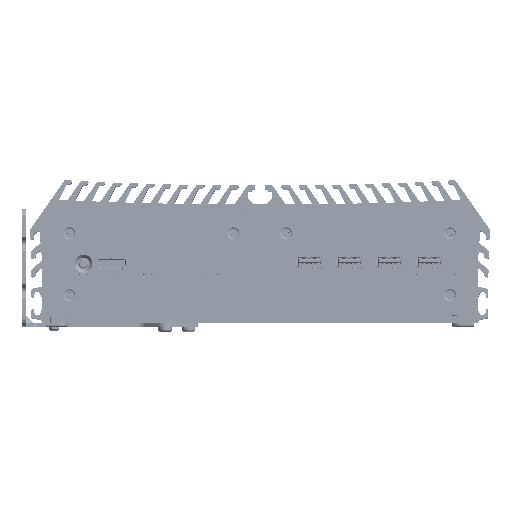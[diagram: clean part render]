
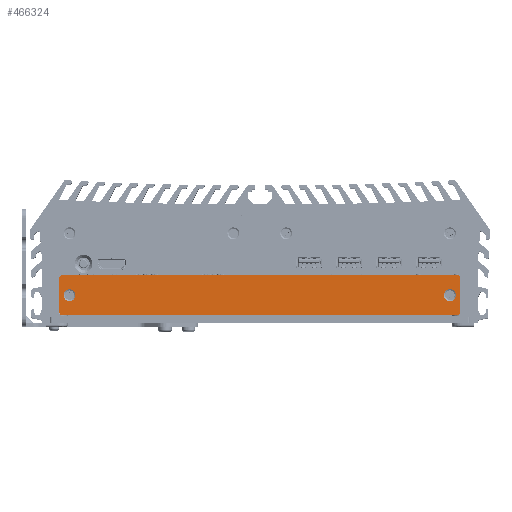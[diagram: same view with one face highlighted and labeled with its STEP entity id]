
A CAD part, top view. The second image highlights one B-rep face of the part: STEP entity #466324.
In plain terms, the highlighted planar face has unit normal (0, 0, 1).
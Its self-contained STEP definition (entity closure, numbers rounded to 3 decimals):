
#171 = ORIENTED_EDGE ( 'NONE', *, *, #6915, .T. ) ;
#858 = VERTEX_POINT ( 'NONE', #154339 ) ;
#930 = EDGE_LOOP ( 'NONE', ( #102968, #289041 ) ) ;
#4235 = DIRECTION ( 'NONE',  ( 1., 0., 0. ) ) ;
#4297 = DIRECTION ( 'NONE',  ( 0., 0., 1. ) ) ;
#5829 = DIRECTION ( 'NONE',  ( -1., 0., 0. ) ) ;
#6915 = EDGE_CURVE ( 'NONE', #99692, #458708, #12972, .T. ) ;
#12972 = LINE ( 'NONE', #361906, #472547 ) ;
#13057 = CARTESIAN_POINT ( 'NONE',  ( -103.261, 0., 2. ) ) ;
#13329 = DIRECTION ( 'NONE',  ( 0., 0., 1. ) ) ;
#23074 = CARTESIAN_POINT ( 'NONE',  ( -96.989, 0., 2. ) ) ;
#24335 = CARTESIAN_POINT ( 'NONE',  ( -105.475, 8.95, 2. ) ) ;
#40212 = VERTEX_POINT ( 'NONE', #168207 ) ;
#40541 = VERTEX_POINT ( 'NONE', #239877 ) ;
#47372 = AXIS2_PLACEMENT_3D ( 'NONE', #105213, #416600, #149912 ) ;
#50829 = CIRCLE ( 'NONE', #250267, 1.7 ) ;
#52632 = DIRECTION ( 'NONE',  ( 0., 0., -1. ) ) ;
#59001 = VECTOR ( 'NONE', #432453, 1000. ) ;
#74867 = ORIENTED_EDGE ( 'NONE', *, *, #246201, .T. ) ;
#77044 = LINE ( 'NONE', #342009, #90994 ) ;
#78910 = FACE_BOUND ( 'NONE', #930, .T. ) ;
#90994 = VECTOR ( 'NONE', #523170, 1000. ) ;
#99692 = VERTEX_POINT ( 'NONE', #531820 ) ;
#102636 = VERTEX_POINT ( 'NONE', #186629 ) ;
#102968 = ORIENTED_EDGE ( 'NONE', *, *, #254647, .T. ) ;
#105213 = CARTESIAN_POINT ( 'NONE',  ( 103.775, -8.95, 2. ) ) ;
#108814 = VERTEX_POINT ( 'NONE', #23074 ) ;
#123111 = ORIENTED_EDGE ( 'NONE', *, *, #465510, .T. ) ;
#125374 = CIRCLE ( 'NONE', #489787, 3.136 ) ;
#127342 = AXIS2_PLACEMENT_3D ( 'NONE', #182751, #494307, #227591 ) ;
#137889 = CARTESIAN_POINT ( 'NONE',  ( 105.475, 8.95, 2. ) ) ;
#140913 = DIRECTION ( 'NONE',  ( 0., 0., -1. ) ) ;
#149912 = DIRECTION ( 'NONE',  ( -1., 0., 0. ) ) ;
#154339 = CARTESIAN_POINT ( 'NONE',  ( 105.475, 8.95, 2. ) ) ;
#168207 = CARTESIAN_POINT ( 'NONE',  ( 105.475, -8.95, 2. ) ) ;
#168852 = VERTEX_POINT ( 'NONE', #24335 ) ;
#169891 = DIRECTION ( 'NONE',  ( 0., 0., -1. ) ) ;
#171719 = VERTEX_POINT ( 'NONE', #196928 ) ;
#173271 = CIRCLE ( 'NONE', #450421, 3.136 ) ;
#182751 = CARTESIAN_POINT ( 'NONE',  ( -103.775, 8.95, 2. ) ) ;
#186629 = CARTESIAN_POINT ( 'NONE',  ( -105.475, -8.95, 2. ) ) ;
#188954 = EDGE_CURVE ( 'NONE', #168852, #102636, #77044, .T. ) ;
#192885 = CARTESIAN_POINT ( 'NONE',  ( -103.775, 10.65, 2. ) ) ;
#196928 = CARTESIAN_POINT ( 'NONE',  ( 103.775, -10.65, 2. ) ) ;
#204191 = AXIS2_PLACEMENT_3D ( 'NONE', #319165, #52632, #363898 ) ;
#227479 = DIRECTION ( 'NONE',  ( 0., 1., 0. ) ) ;
#227591 = DIRECTION ( 'NONE',  ( -1., 0., 0. ) ) ;
#229361 = VERTEX_POINT ( 'NONE', #462696 ) ;
#231374 = EDGE_CURVE ( 'NONE', #458708, #168852, #415476, .T. ) ;
#232146 = DIRECTION ( 'NONE',  ( 0., 0., -1. ) ) ;
#239877 = CARTESIAN_POINT ( 'NONE',  ( 96.989, 0., 2. ) ) ;
#246201 = EDGE_CURVE ( 'NONE', #171719, #40212, #317732, .T. ) ;
#246267 = LINE ( 'NONE', #137889, #497120 ) ;
#250267 = AXIS2_PLACEMENT_3D ( 'NONE', #270956, #4297, #315641 ) ;
#254647 = EDGE_CURVE ( 'NONE', #108814, #484351, #173271, .T. ) ;
#270896 = DIRECTION ( 'NONE',  ( 0., 0., 1. ) ) ;
#270956 = CARTESIAN_POINT ( 'NONE',  ( -103.775, -8.95, 2. ) ) ;
#279987 = CARTESIAN_POINT ( 'NONE',  ( 103.775, 8.95, 2. ) ) ;
#289041 = ORIENTED_EDGE ( 'NONE', *, *, #393317, .T. ) ;
#306920 = EDGE_CURVE ( 'NONE', #40212, #858, #246267, .T. ) ;
#308518 = ORIENTED_EDGE ( 'NONE', *, *, #543657, .T. ) ;
#315073 = ORIENTED_EDGE ( 'NONE', *, *, #378008, .T. ) ;
#315641 = DIRECTION ( 'NONE',  ( -1., 0., 0. ) ) ;
#317732 = CIRCLE ( 'NONE', #47372, 1.7 ) ;
#318525 = CARTESIAN_POINT ( 'NONE',  ( -103.775, -10.65, 2. ) ) ;
#318527 = CIRCLE ( 'NONE', #428937, 3.136 ) ;
#319165 = CARTESIAN_POINT ( 'NONE',  ( -100.125, 0., 2. ) ) ;
#324629 = DIRECTION ( 'NONE',  ( 1., 0., 0. ) ) ;
#329628 = FACE_OUTER_BOUND ( 'NONE', #343398, .T. ) ;
#342009 = CARTESIAN_POINT ( 'NONE',  ( -105.475, 8.95, 2. ) ) ;
#343398 = EDGE_LOOP ( 'NONE', ( #123111, #171, #545027, #426027, #396674, #315073, #74867, #381392 ) ) ;
#344172 = CIRCLE ( 'NONE', #417228, 1.7 ) ;
#361906 = CARTESIAN_POINT ( 'NONE',  ( -103.775, 10.65, 2. ) ) ;
#363898 = DIRECTION ( 'NONE',  ( 1., 0., 0. ) ) ;
#378008 = EDGE_CURVE ( 'NONE', #448478, #171719, #414101, .T. ) ;
#381392 = ORIENTED_EDGE ( 'NONE', *, *, #306920, .T. ) ;
#387821 = CARTESIAN_POINT ( 'NONE',  ( -103.775, -10.65, 2. ) ) ;
#393317 = EDGE_CURVE ( 'NONE', #484351, #108814, #570480, .T. ) ;
#396674 = ORIENTED_EDGE ( 'NONE', *, *, #438297, .T. ) ;
#403139 = CARTESIAN_POINT ( 'NONE',  ( 103.775, 8.95, 2. ) ) ;
#407613 = CARTESIAN_POINT ( 'NONE',  ( 100.125, 0., 2. ) ) ;
#408134 = ORIENTED_EDGE ( 'NONE', *, *, #564440, .T. ) ;
#414101 = LINE ( 'NONE', #387821, #59001 ) ;
#415476 = CIRCLE ( 'NONE', #127342, 1.7 ) ;
#416600 = DIRECTION ( 'NONE',  ( 0., 0., 1. ) ) ;
#417228 = AXIS2_PLACEMENT_3D ( 'NONE', #279987, #13329, #324629 ) ;
#426027 = ORIENTED_EDGE ( 'NONE', *, *, #188954, .T. ) ;
#428937 = AXIS2_PLACEMENT_3D ( 'NONE', #498903, #232146, #543778 ) ;
#432453 = DIRECTION ( 'NONE',  ( 1., 0., 0. ) ) ;
#434007 = FACE_BOUND ( 'NONE', #485179, .T. ) ;
#436542 = CARTESIAN_POINT ( 'NONE',  ( -100.125, 0., 2. ) ) ;
#438297 = EDGE_CURVE ( 'NONE', #102636, #448478, #50829, .T. ) ;
#448478 = VERTEX_POINT ( 'NONE', #318525 ) ;
#450421 = AXIS2_PLACEMENT_3D ( 'NONE', #436542, #169891, #481413 ) ;
#452383 = DIRECTION ( 'NONE',  ( 1., 0., 0. ) ) ;
#458708 = VERTEX_POINT ( 'NONE', #192885 ) ;
#462696 = CARTESIAN_POINT ( 'NONE',  ( 103.261, 0., 2. ) ) ;
#465510 = EDGE_CURVE ( 'NONE', #858, #99692, #344172, .T. ) ;
#466324 = ADVANCED_FACE ( 'NONE', ( #78910, #434007, #329628 ), #537661, .T. ) ;
#472547 = VECTOR ( 'NONE', #5829, 1000. ) ;
#481413 = DIRECTION ( 'NONE',  ( 1., 0., 0. ) ) ;
#484351 = VERTEX_POINT ( 'NONE', #13057 ) ;
#485179 = EDGE_LOOP ( 'NONE', ( #308518, #408134 ) ) ;
#489787 = AXIS2_PLACEMENT_3D ( 'NONE', #407613, #140913, #452383 ) ;
#494307 = DIRECTION ( 'NONE',  ( 0., 0., 1. ) ) ;
#497120 = VECTOR ( 'NONE', #227479, 1000. ) ;
#498903 = CARTESIAN_POINT ( 'NONE',  ( 100.125, 0., 2. ) ) ;
#523170 = DIRECTION ( 'NONE',  ( 0., -1., 0. ) ) ;
#531820 = CARTESIAN_POINT ( 'NONE',  ( 103.775, 10.65, 2. ) ) ;
#533290 = AXIS2_PLACEMENT_3D ( 'NONE', #403139, #270896, #4235 ) ;
#537661 = PLANE ( 'NONE',  #533290 ) ;
#543657 = EDGE_CURVE ( 'NONE', #229361, #40541, #318527, .T. ) ;
#543778 = DIRECTION ( 'NONE',  ( 1., 0., 0. ) ) ;
#545027 = ORIENTED_EDGE ( 'NONE', *, *, #231374, .T. ) ;
#564440 = EDGE_CURVE ( 'NONE', #40541, #229361, #125374, .T. ) ;
#570480 = CIRCLE ( 'NONE', #204191, 3.136 ) ;
